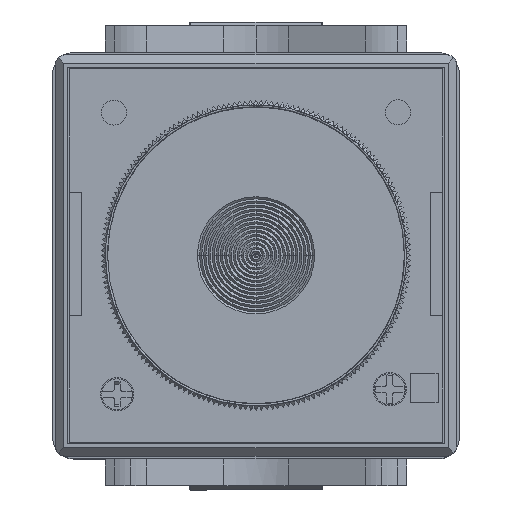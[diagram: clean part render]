
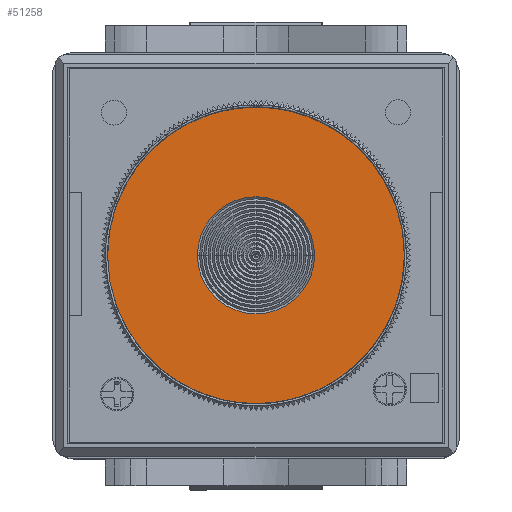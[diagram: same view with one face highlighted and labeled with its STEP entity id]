
A CAD part, top view. The second image highlights one B-rep face of the part: STEP entity #51258.
In plain terms, the highlighted planar face has unit normal (0, 0, 1).
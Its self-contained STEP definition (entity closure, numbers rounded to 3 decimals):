
#242 = ORIENTED_EDGE ( 'NONE', *, *, #49714, .T. ) ;
#2018 = VERTEX_POINT ( 'NONE', #54758 ) ;
#3957 = DIRECTION ( 'NONE',  ( 1., 0., 0. ) ) ;
#11683 = CARTESIAN_POINT ( 'NONE',  ( -1.118, -3.115, 119.075 ) ) ;
#13347 = ORIENTED_EDGE ( 'NONE', *, *, #95030, .T. ) ;
#15647 = CIRCLE ( 'NONE', #98636, 7. ) ;
#16744 = CIRCLE ( 'NONE', #85571, 7. ) ;
#21605 = CARTESIAN_POINT ( 'NONE',  ( 5.882, -3.115, 119.075 ) ) ;
#22044 = AXIS2_PLACEMENT_3D ( 'NONE', #24865, #40210, #79063 ) ;
#23485 = ORIENTED_EDGE ( 'NONE', *, *, #35242, .T. ) ;
#23673 = CARTESIAN_POINT ( 'NONE',  ( -8.118, -3.115, 119.075 ) ) ;
#24694 = DIRECTION ( 'NONE',  ( 1., 0., 0. ) ) ;
#24865 = CARTESIAN_POINT ( 'NONE',  ( -1.118, -3.115, 119.075 ) ) ;
#26930 = DIRECTION ( 'NONE',  ( 0., 0., 1. ) ) ;
#33401 = CARTESIAN_POINT ( 'NONE',  ( -18.868, -3.115, 119.075 ) ) ;
#34431 = VERTEX_POINT ( 'NONE', #21605 ) ;
#35240 = FACE_OUTER_BOUND ( 'NONE', #98410, .T. ) ;
#35242 = EDGE_CURVE ( 'NONE', #93986, #34431, #15647, .T. ) ;
#40210 = DIRECTION ( 'NONE',  ( 0., 0., 1. ) ) ;
#42547 = AXIS2_PLACEMENT_3D ( 'NONE', #71356, #87615, #78647 ) ;
#46269 = ORIENTED_EDGE ( 'NONE', *, *, #67288, .T. ) ;
#49714 = EDGE_CURVE ( 'NONE', #34431, #93986, #16744, .T. ) ;
#51258 = ADVANCED_FACE ( 'NONE', ( #35240, #98383 ), #55787, .T. ) ;
#51570 = CARTESIAN_POINT ( 'NONE',  ( -1.118, -3.115, 119.075 ) ) ;
#54758 = CARTESIAN_POINT ( 'NONE',  ( 16.632, -3.115, 119.075 ) ) ;
#55787 = PLANE ( 'NONE',  #22044 ) ;
#57632 = VERTEX_POINT ( 'NONE', #33401 ) ;
#59257 = DIRECTION ( 'NONE',  ( 1., 0., 0. ) ) ;
#67288 = EDGE_CURVE ( 'NONE', #57632, #2018, #72067, .T. ) ;
#70620 = DIRECTION ( 'NONE',  ( 0., 0., -1. ) ) ;
#71356 = CARTESIAN_POINT ( 'NONE',  ( -1.118, -3.115, 119.075 ) ) ;
#71903 = AXIS2_PLACEMENT_3D ( 'NONE', #51570, #26930, #59257 ) ;
#72067 = CIRCLE ( 'NONE', #71903, 17.75 ) ;
#78647 = DIRECTION ( 'NONE',  ( 1., 0., 0. ) ) ;
#79063 = DIRECTION ( 'NONE',  ( 1., 0., 0. ) ) ;
#81765 = EDGE_LOOP ( 'NONE', ( #242, #23485 ) ) ;
#85571 = AXIS2_PLACEMENT_3D ( 'NONE', #86879, #70620, #24694 ) ;
#86879 = CARTESIAN_POINT ( 'NONE',  ( -1.118, -3.115, 119.075 ) ) ;
#87615 = DIRECTION ( 'NONE',  ( 0., 0., 1. ) ) ;
#88236 = DIRECTION ( 'NONE',  ( 0., 0., -1. ) ) ;
#93986 = VERTEX_POINT ( 'NONE', #23673 ) ;
#95030 = EDGE_CURVE ( 'NONE', #2018, #57632, #95792, .T. ) ;
#95792 = CIRCLE ( 'NONE', #42547, 17.75 ) ;
#98383 = FACE_BOUND ( 'NONE', #81765, .T. ) ;
#98410 = EDGE_LOOP ( 'NONE', ( #13347, #46269 ) ) ;
#98636 = AXIS2_PLACEMENT_3D ( 'NONE', #11683, #88236, #3957 ) ;
